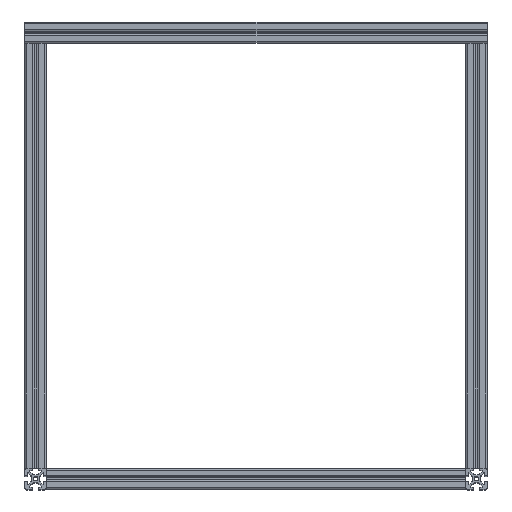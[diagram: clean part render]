
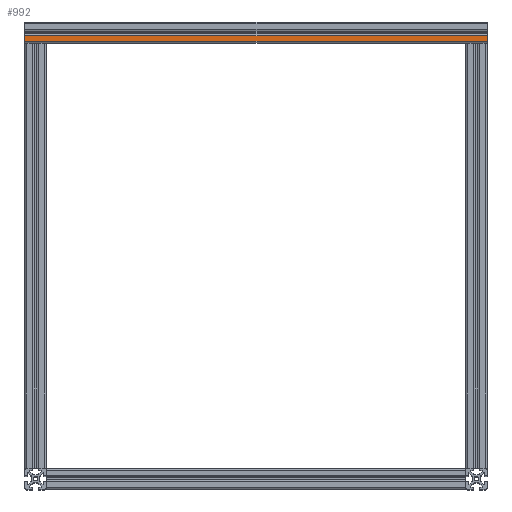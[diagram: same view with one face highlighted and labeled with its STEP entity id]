
A CAD part, top view. The second image highlights one B-rep face of the part: STEP entity #992.
In plain terms, the highlighted planar face has unit normal (0, 0, 1).
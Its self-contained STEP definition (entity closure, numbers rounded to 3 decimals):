
#116 = LINE ( 'NONE', #15429, #10682 ) ;
#305 = FACE_OUTER_BOUND ( 'NONE', #8016, .T. ) ;
#648 = CARTESIAN_POINT ( 'NONE',  ( 203.2, 417., 10. ) ) ;
#992 = ADVANCED_FACE ( 'NONE', ( #305 ), #12155, .F. ) ;
#1420 = DIRECTION ( 'NONE',  ( 0., 1., 0. ) ) ;
#1873 = ORIENTED_EDGE ( 'NONE', *, *, #16901, .F. ) ;
#4301 = DIRECTION ( 'NONE',  ( -1., 0., 0. ) ) ;
#4329 = VERTEX_POINT ( 'NONE', #17235 ) ;
#4370 = AXIS2_PLACEMENT_3D ( 'NONE', #648, #17262, #17795 ) ;
#4456 = EDGE_CURVE ( 'NONE', #4329, #18336, #15192, .T. ) ;
#6529 = ORIENTED_EDGE ( 'NONE', *, *, #11432, .T. ) ;
#6873 = VERTEX_POINT ( 'NONE', #11078 ) ;
#6915 = EDGE_CURVE ( 'NONE', #6873, #10110, #15872, .T. ) ;
#7121 = CARTESIAN_POINT ( 'NONE',  ( 217.5, 411.75, 10. ) ) ;
#8016 = EDGE_LOOP ( 'NONE', ( #1873, #11118, #6529, #11978 ) ) ;
#8581 = LINE ( 'NONE', #11632, #12408 ) ;
#10110 = VERTEX_POINT ( 'NONE', #16967 ) ;
#10682 = VECTOR ( 'NONE', #4301, 1000. ) ;
#11078 = CARTESIAN_POINT ( 'NONE',  ( -217.5, 411.75, 10. ) ) ;
#11118 = ORIENTED_EDGE ( 'NONE', *, *, #4456, .F. ) ;
#11277 = DIRECTION ( 'NONE',  ( -1., 0., 0. ) ) ;
#11432 = EDGE_CURVE ( 'NONE', #4329, #10110, #8581, .T. ) ;
#11632 = CARTESIAN_POINT ( 'NONE',  ( 203.2, 417., 10. ) ) ;
#11978 = ORIENTED_EDGE ( 'NONE', *, *, #6915, .F. ) ;
#12155 = PLANE ( 'NONE',  #4370 ) ;
#12408 = VECTOR ( 'NONE', #11277, 1000. ) ;
#12909 = VECTOR ( 'NONE', #16394, 1000. ) ;
#12918 = CARTESIAN_POINT ( 'NONE',  ( -217.5, 417., 10. ) ) ;
#13442 = CARTESIAN_POINT ( 'NONE',  ( 217.5, 417., 10. ) ) ;
#14914 = VECTOR ( 'NONE', #1420, 1000. ) ;
#15192 = LINE ( 'NONE', #13442, #12909 ) ;
#15429 = CARTESIAN_POINT ( 'NONE',  ( 203.2, 411.75, 10. ) ) ;
#15872 = LINE ( 'NONE', #12918, #14914 ) ;
#16394 = DIRECTION ( 'NONE',  ( 0., -1., 0. ) ) ;
#16901 = EDGE_CURVE ( 'NONE', #18336, #6873, #116, .T. ) ;
#16967 = CARTESIAN_POINT ( 'NONE',  ( -217.5, 417., 10. ) ) ;
#17235 = CARTESIAN_POINT ( 'NONE',  ( 217.5, 417., 10. ) ) ;
#17262 = DIRECTION ( 'NONE',  ( 0., 0., -1. ) ) ;
#17795 = DIRECTION ( 'NONE',  ( 0., 1., 0. ) ) ;
#18336 = VERTEX_POINT ( 'NONE', #7121 ) ;
